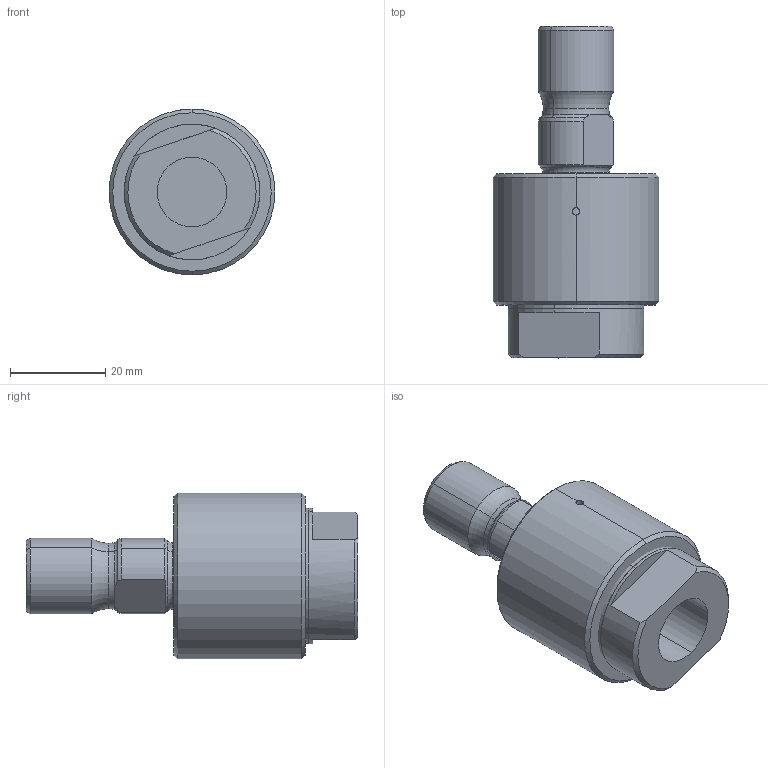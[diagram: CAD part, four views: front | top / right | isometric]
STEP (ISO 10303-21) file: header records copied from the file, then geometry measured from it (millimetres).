
FILE_DESCRIPTION (( 'STEP AP203' ), '1' );
FILE_NAME ('R020-02018.STEP', '2015-02-10T13:39:29', ( '' ), ( '' ), 'SwSTEP 2.0', 'SolidWorks 2014', '' );
FILE_SCHEMA (( 'CONFIG_CONTROL_DESIGN' ));
Length unit declared in the file: inch
Products named in the file (1): R020-02018
Bounding box: 34.92 x 69.85 x 34.92 mm (x, y, z)
Volume: 33182.9 mm3; surface area: 15830.8 mm2
Topology: 5 solids, 5 shells, 102 faces, 241 edges, 149 vertices
Faces by surface type: cylinder 33, plane 23, cone 21, torus 17, sphere 8
Entity records: 3139 total; most frequent: CARTESIAN_POINT 639, DIRECTION 562, ORIENTED_EDGE 478, AXIS2_PLACEMENT_3D 248, EDGE_CURVE 239, VERTEX_POINT 149, CIRCLE 145, EDGE_LOOP 112
